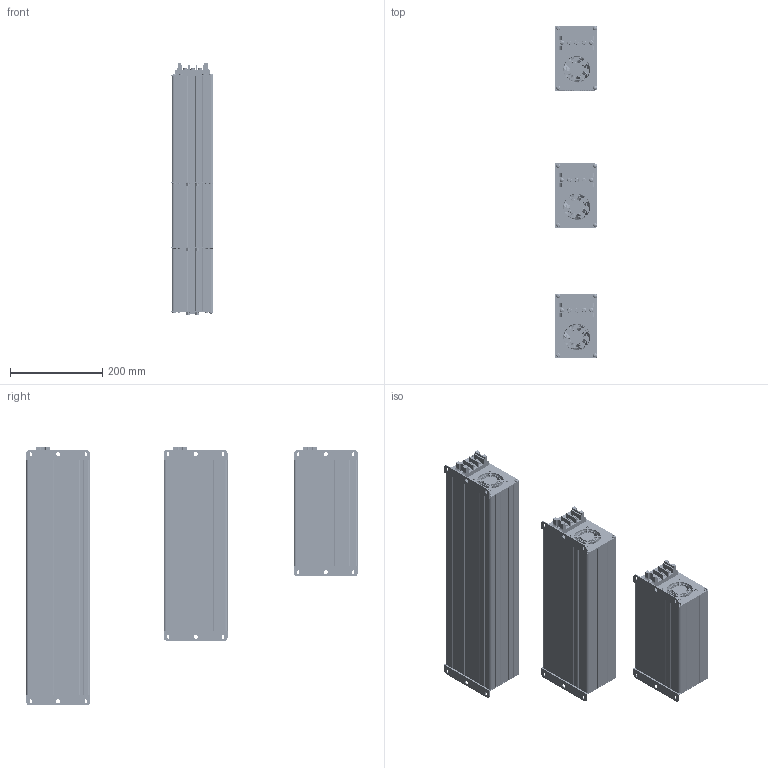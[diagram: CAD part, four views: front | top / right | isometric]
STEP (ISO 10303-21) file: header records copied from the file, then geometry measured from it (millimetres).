
FILE_DESCRIPTION(/* description */ (''),/* implementation_level */ '2;1');
FILE_NAME(/* name */ 'H:\04_배터리_전기종\고부하용 배터리 케이스_3D\CHCOM\20201021_CHCOM230,370,510.stp',/* time_stamp */ '2020-10-21T09:44:03+09:00',/* author */ ('jjang'),/* organization */ (''),/* preprocessor_version */ 'ST-DEVELOPER v18.1',/* originating_system */ 'Autodesk Inventor 2021',/* authorisation */ '');
FILE_SCHEMA (('AUTOMOTIVE_DESIGN { 1 0 10303 214 3 1 1 }'));
Products named in the file (1): CHCOM230,370,510_Shrinkwrap_1
Bounding box: 93 x 719.45 x 561.5 mm (x, y, z)
Volume: 1778104 mm3; surface area: 1413872.4 mm2
Topology: 9 solids, 9 shells, 7842 faces, 24910 edges, 17912 vertices
Faces by surface type: plane 4402, cylinder 2002, bspline 1176, torus 191, sphere 41, cone 30
Full cylindrical faces by diameter (mm): 0.457 x3, 0.61 x81, 0.635 x27, 0.9 x6, 1.397 x27, 1.6 x6, 2 x6, 2.286 x27, 2.3 x6, 2.5 x6, 2.8 x12, 3.048 x12, 3.2 x12, 3.8 x24, 4 x3, 4.3 x12, 4.5 x30, 4.8 x9, 5 x31, 5.5 x18, 5.6 x12, 6 x9, 6.082 x3, 8 x3, 8.4 x12, 8.584 x9, 8.6 x9, 8.8 x24, 9 x6, 9.2 x6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
Entity records: 332419 total; most frequent: CARTESIAN_POINT 110151, ORIENTED_EDGE 49742, DIRECTION 37851, EDGE_CURVE 24871, VERTEX_POINT 17912, LINE 13283, VECTOR 13283, AXIS2_PLACEMENT_3D 12284
